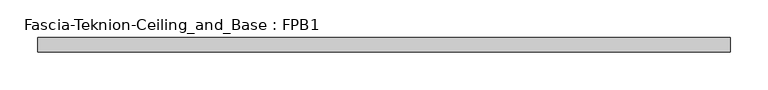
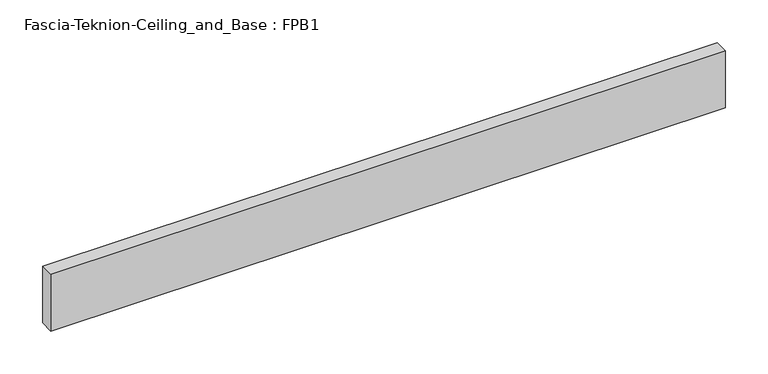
"""IFC4 building model written with IfcOpenShell, lengths in millimetres: proxy geometry, Fascia-Teknion-Ceiling_and_Base : FPB1."""

from ifc_helpers import new_model, si_unit, origin, origin_with_axes, place, context, project, spatial, polyline, outline, extrude, source, transform, mapped, element, save


def fascia_teknion_ceiling_and_base_fpb1_3a73742f(model_context):
    return source(origin(), model_context, "Body", "SweptSolid", [
        extrude(outline(polyline([(455.6125, 0.0), (455.6125, -19.05), (-455.6125, -19.05), (-455.6125, 0.0), (455.6125, 0.0)])), origin_with_axes(), (0.0, 0.0, 1.0), 81.28),
    ])


if __name__ == "__main__":
    model = new_model("IFC4")
    model_context = context("Model", 3, world=origin())
    ifc_project = project(units=[si_unit("LENGTHUNIT", "METRE", prefix="MILLI")], contexts=[model_context])
    site = spatial("IfcSite", under=ifc_project)
    building = spatial("IfcBuilding", under=site)
    placement = place(None, origin())
    fascia_teknion_ceiling_and_base_fpb1_shape = fascia_teknion_ceiling_and_base_fpb1_3a73742f(model_context)
    element("IfcBuildingElementProxy", 1, Name="Fascia-Teknion-Ceiling_and_Base : FPB1", ObjectType="Fascia-Teknion-Ceiling_and_Base : FPB1", at=placement, inside=building, context=model_context, shape_type="MappedRepresentation", body=[
        mapped(fascia_teknion_ceiling_and_base_fpb1_shape, transform((0.0, 0.0, 0.0), x_axis=(1.0, 0.0, 0.0), y_axis=(0.0, 1.0, 0.0), z_axis=(0.0, 0.0, 1.0))),
    ])
    save(model, "model.ifc")
